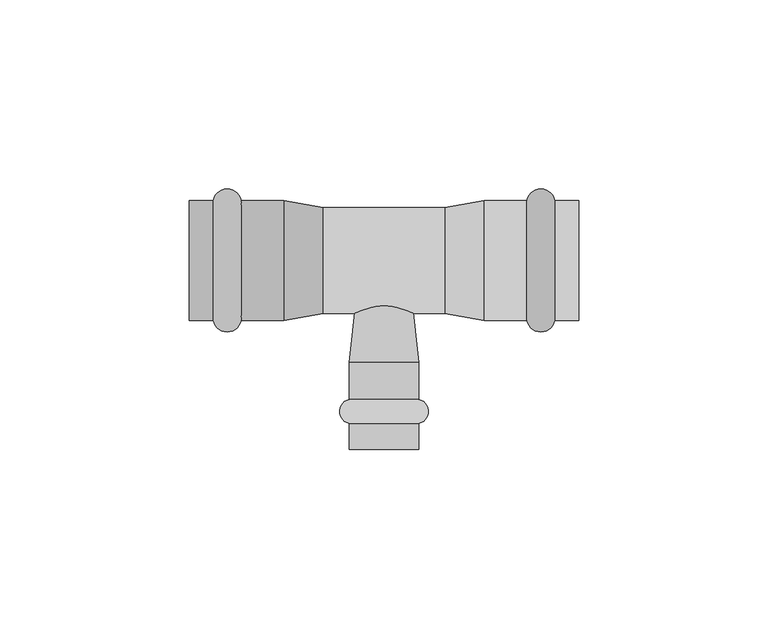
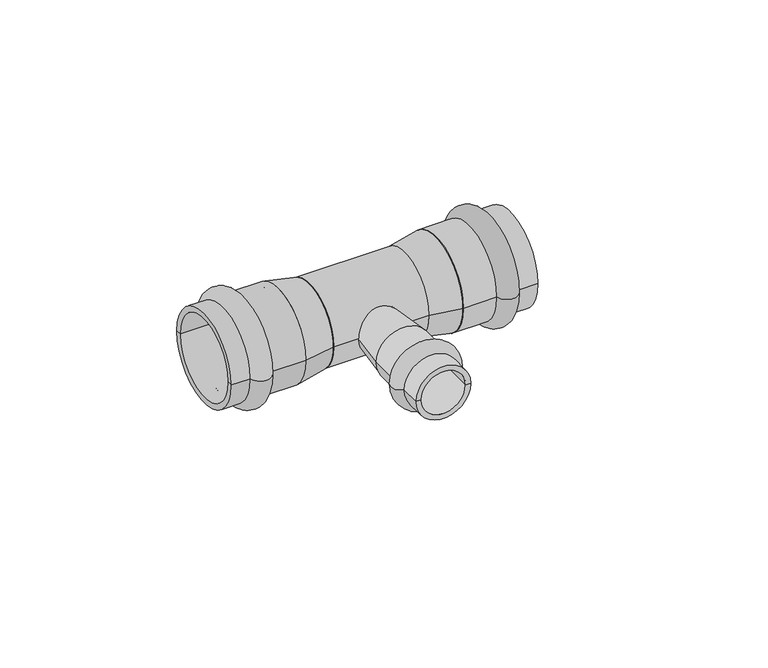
"""IFC4 building model written with IfcOpenShell, lengths in millimetres: pipe fitting geometry, VALTEC_VTi.931.I_Тройник_Ннержавеющая сталь : VTi.931.I."""

from ifc_helpers import new_model, si_unit, point, frame, origin, origin_2d, place, context, project, spatial, polyline, circle_curve, ellipse_curve, trimmed, segment, composite_curve, outline, extrude, source, transform, mapped, element, save
from ifc_brep_helpers import plane_surface, cylinder_surface, revolved_surface, advanced_brep


def pipe_fitting_ce7a8e54(model_context):
    return source(origin(), model_context, "Body", "SolidModel", [
        advanced_brep(
        [(9.25, -43.1122777, 0.0), (-9.25, -43.1122777, 0.0), (-9.25, -36.7877223, 0.0), (9.25, -36.7877223, 0.0), (9.25, -50.0, 0.0), (-9.25, -50.0, 0.0), (7.5, -50.0, 0.0), (-7.5, -50.0, 0.0), (7.5, -27.0, 0.0), (-7.5, -27.0, 0.0), (9.25, -27.0, 0.0), (-9.25, -27.0, 0.0)],
        [
            (0, 1, circle_curve(frame((0.0, -43.1122777, 0.0), z_axis=(0.0, 1.0, 0.0), x_axis=(-1.0, 0.0, 0.0)), 9.25)),
            (1, 2, circle_curve(frame((-8.5, -39.95, 0.0), z_axis=(0.0, 0.0, -1.0), x_axis=(0.0, 1.0, 0.0)), 3.25)),
            (2, 3, circle_curve(frame((0.0, -36.7877223, 0.0), z_axis=(0.0, -1.0, 0.0), x_axis=(-1.0, 0.0, 0.0)), 9.25)),
            (3, 0, circle_curve(frame((8.5, -39.95, 0.0), z_axis=(0.0, 0.0, -1.0), x_axis=(0.0, 1.0, 0.0)), 3.25)),
            (1, 0, circle_curve(frame((0.0, -43.1122777, 0.0), z_axis=(0.0, 1.0, 0.0), x_axis=(-1.0, 0.0, 0.0)), 9.25)),
            (3, 2, circle_curve(frame((0.0, -36.7877223, 0.0), z_axis=(0.0, -1.0, 0.0), x_axis=(-1.0, 0.0, 0.0)), 9.25)),
            (4, 5, circle_curve(frame((0.0, -50.0, 0.0), z_axis=(0.0, 1.0, 0.0), x_axis=(-1.0, 0.0, 0.0)), 9.25)),
            (5, 1),
            (0, 4),
            (5, 4, circle_curve(frame((0.0, -50.0, 0.0), z_axis=(0.0, 1.0, 0.0), x_axis=(-1.0, 0.0, 0.0)), 9.25)),
            (6, 7, circle_curve(frame((0.0, -50.0, 0.0), z_axis=(0.0, 1.0, 0.0), x_axis=(-1.0, 0.0, 0.0)), 7.5)),
            (7, 5),
            (4, 6),
            (7, 6, circle_curve(frame((0.0, -50.0, 0.0), z_axis=(0.0, 1.0, 0.0), x_axis=(-1.0, 0.0, 0.0)), 7.5)),
            (8, 9, circle_curve(frame((0.0, -27.0, 0.0), z_axis=(0.0, 1.0, 0.0), x_axis=(-1.0, 0.0, 0.0)), 7.5)),
            (9, 7),
            (6, 8),
            (9, 8, circle_curve(frame((0.0, -27.0, 0.0), z_axis=(0.0, 1.0, 0.0), x_axis=(-1.0, 0.0, 0.0)), 7.5)),
            (10, 11, circle_curve(frame((0.0, -27.0, 0.0), z_axis=(0.0, 1.0, 0.0), x_axis=(-1.0, 0.0, 0.0)), 9.25)),
            (11, 9),
            (8, 10),
            (11, 10, circle_curve(frame((0.0, -27.0, 0.0), z_axis=(0.0, 1.0, 0.0), x_axis=(-1.0, 0.0, 0.0)), 9.25)),
            (2, 11),
            (10, 3),
        ],
        [
            revolved_surface(trimmed(ellipse_curve(frame((-8.5, -39.95, 0.0), z_axis=(0.0, 0.0, 1.0), x_axis=(0.0, 1.0, 0.0)), 3.25, 3.25), [point((-9.25, -36.7877223, 0.0))], [point((-9.25, -43.1122777, 0.0))], True, "CARTESIAN"), (0.0, -53.5364426, 0.0), (0.0, -1.0, 0.0)),
            cylinder_surface(frame((0.0, -53.5364426, 0.0), z_axis=(0.0, -1.0, 0.0), x_axis=(-1.0, 0.0, 0.0)), 9.25),
            plane_surface(frame((0.0, -50.0, 0.0), z_axis=(0.0, -1.0, 0.0), x_axis=(-1.0, 0.0, 0.0))),
            revolved_surface(polyline([(-7.5, -50.0, 0.0), (-7.5, -27.0, 0.0)]), (0.0, -53.5364426, 0.0), (0.0, -1.0, 0.0)),
            plane_surface(frame((0.0, -27.0, 0.0), z_axis=(0.0, 1.0, 0.0), x_axis=(-1.0, 0.0, 0.0))),
        ],
        [
            (0, [[1, 2, 3, 4]]),
            (0, [[5, -4, 6, -2]]),
            (1, [[7, 8, -1, 9]]),
            (1, [[10, -9, -5, -8]]),
            (2, [[11, 12, -7, 13]]),
            (2, [[14, -13, -10, -12]]),
            (3, [[15, 16, -11, 17]]),
            (3, [[18, -17, -14, -16]]),
            (4, [[19, 20, -15, 21]]),
            (4, [[22, -21, -18, -20]]),
            (1, [[-3, 23, -19, 24]]),
            (1, [[-6, -24, -22, -23]]),
        ],
    ),
        advanced_brep(
        [(45.1242346, 15.9, 0.0), (45.1242346, -15.9, 0.0), (37.7757654, -15.9, 0.0), (37.7757654, 15.9, 0.0), (51.5, 15.9, 0.0), (51.5, -15.9, 0.0), (51.5, 14.0, 0.0), (51.5, -14.0, 0.0), (26.5, 14.0, 0.0), (26.5, -14.0, 0.0), (26.5, 15.9, 0.0), (26.5, -15.9, 0.0)],
        [
            (0, 1, circle_curve(frame((45.1242346, 0.0, 0.0), z_axis=(-1.0, 0.0, 0.0), x_axis=(0.0, -1.0, 0.0)), 15.9)),
            (1, 2, circle_curve(frame((41.45, -15.15, 0.0), z_axis=(0.0, 0.0, -1.0), x_axis=(-1.0, 0.0, 0.0)), 3.75)),
            (2, 3, circle_curve(frame((37.7757654, 0.0, 0.0), z_axis=(1.0, 0.0, 0.0), x_axis=(0.0, -1.0, 0.0)), 15.9)),
            (3, 0, circle_curve(frame((41.45, 15.15, 0.0), z_axis=(0.0, 0.0, -1.0), x_axis=(-1.0, 0.0, 0.0)), 3.75)),
            (1, 0, circle_curve(frame((45.1242346, 0.0, 0.0), z_axis=(-1.0, 0.0, 0.0), x_axis=(0.0, -1.0, 0.0)), 15.9)),
            (3, 2, circle_curve(frame((37.7757654, 0.0, 0.0), z_axis=(1.0, 0.0, 0.0), x_axis=(0.0, -1.0, 0.0)), 15.9)),
            (4, 5, circle_curve(frame((51.5, 0.0, 0.0), z_axis=(-1.0, 0.0, 0.0), x_axis=(0.0, -1.0, 0.0)), 15.9)),
            (5, 1),
            (0, 4),
            (5, 4, circle_curve(frame((51.5, 0.0, 0.0), z_axis=(-1.0, 0.0, 0.0), x_axis=(0.0, -1.0, 0.0)), 15.9)),
            (6, 7, circle_curve(frame((51.5, 0.0, 0.0), z_axis=(-1.0, 0.0, 0.0), x_axis=(0.0, -1.0, 0.0)), 14.0)),
            (7, 5),
            (4, 6),
            (7, 6, circle_curve(frame((51.5, 0.0, 0.0), z_axis=(-1.0, 0.0, 0.0), x_axis=(0.0, -1.0, 0.0)), 14.0)),
            (8, 9, circle_curve(frame((26.5, 0.0, 0.0), z_axis=(-1.0, 0.0, 0.0), x_axis=(0.0, -1.0, 0.0)), 14.0)),
            (9, 7),
            (6, 8),
            (9, 8, circle_curve(frame((26.5, 0.0, 0.0), z_axis=(-1.0, 0.0, 0.0), x_axis=(0.0, -1.0, 0.0)), 14.0)),
            (10, 11, circle_curve(frame((26.5, 0.0, 0.0), z_axis=(-1.0, 0.0, 0.0), x_axis=(0.0, -1.0, 0.0)), 15.9)),
            (11, 9),
            (8, 10),
            (11, 10, circle_curve(frame((26.5, 0.0, 0.0), z_axis=(-1.0, 0.0, 0.0), x_axis=(0.0, -1.0, 0.0)), 15.9)),
            (2, 11),
            (10, 3),
        ],
        [
            revolved_surface(trimmed(ellipse_curve(frame((41.45, -15.15, 0.0), z_axis=(0.0, 0.0, 1.0), x_axis=(-1.0, 0.0, 0.0)), 3.75, 3.75), [point((37.7757654, -15.9, 0.0))], [point((45.1242346, -15.9, 0.0))], True, "CARTESIAN"), (55.0364426, 0.0, 0.0), (1.0, 0.0, 0.0)),
            cylinder_surface(frame((55.0364426, 0.0, 0.0), z_axis=(1.0, 0.0, 0.0), x_axis=(0.0, -1.0, 0.0)), 15.9),
            plane_surface(frame((51.5, 0.0, 0.0), z_axis=(1.0, 0.0, 0.0), x_axis=(0.0, -1.0, 0.0))),
            revolved_surface(polyline([(51.5, -14.0, 0.0), (26.5, -14.0, 0.0)]), (55.0364426, 0.0, 0.0), (1.0, 0.0, 0.0)),
            plane_surface(frame((26.5, 0.0, 0.0), z_axis=(-1.0, 0.0, 0.0), x_axis=(0.0, -1.0, 0.0))),
        ],
        [
            (0, [[1, 2, 3, 4]]),
            (0, [[5, -4, 6, -2]]),
            (1, [[7, 8, -1, 9]]),
            (1, [[10, -9, -5, -8]]),
            (2, [[11, 12, -7, 13]]),
            (2, [[14, -13, -10, -12]]),
            (3, [[15, 16, -11, 17]]),
            (3, [[18, -17, -14, -16]]),
            (4, [[19, 20, -15, 21]]),
            (4, [[22, -21, -18, -20]]),
            (1, [[-3, 23, -19, 24]]),
            (1, [[-6, -24, -22, -23]]),
        ],
    ),
        advanced_brep(
        [(-45.1242346, -15.9, 0.0), (-45.1242346, 15.9, 0.0), (-37.7757654, 15.9, 0.0), (-37.7757654, -15.9, 0.0), (-51.5, -15.9, 0.0), (-51.5, 15.9, 0.0), (-51.5, -14.0, 0.0), (-51.5, 14.0, 0.0), (-26.5, -14.0, 0.0), (-26.5, 14.0, 0.0), (-26.5, -15.9, 0.0), (-26.5, 15.9, 0.0)],
        [
            (0, 1, circle_curve(frame((-45.1242346, 0.0, 0.0), z_axis=(1.0, 0.0, 0.0), x_axis=(0.0, 1.0, 0.0)), 15.9)),
            (1, 2, circle_curve(frame((-41.45, 15.15, 0.0), z_axis=(0.0, 0.0, -1.0), x_axis=(1.0, 0.0, 0.0)), 3.75)),
            (2, 3, circle_curve(frame((-37.7757654, 0.0, 0.0), z_axis=(-1.0, 0.0, 0.0), x_axis=(0.0, 1.0, 0.0)), 15.9)),
            (3, 0, circle_curve(frame((-41.45, -15.15, 0.0), z_axis=(0.0, 0.0, -1.0), x_axis=(1.0, 0.0, 0.0)), 3.75)),
            (1, 0, circle_curve(frame((-45.1242346, 0.0, 0.0), z_axis=(1.0, 0.0, 0.0), x_axis=(0.0, 1.0, 0.0)), 15.9)),
            (3, 2, circle_curve(frame((-37.7757654, 0.0, 0.0), z_axis=(-1.0, 0.0, 0.0), x_axis=(0.0, 1.0, 0.0)), 15.9)),
            (4, 5, circle_curve(frame((-51.5, 0.0, 0.0), z_axis=(1.0, 0.0, 0.0), x_axis=(0.0, 1.0, 0.0)), 15.9)),
            (5, 1),
            (0, 4),
            (5, 4, circle_curve(frame((-51.5, 0.0, 0.0), z_axis=(1.0, 0.0, 0.0), x_axis=(0.0, 1.0, 0.0)), 15.9)),
            (6, 7, circle_curve(frame((-51.5, 0.0, 0.0), z_axis=(1.0, 0.0, 0.0), x_axis=(0.0, 1.0, 0.0)), 14.0)),
            (7, 5),
            (4, 6),
            (7, 6, circle_curve(frame((-51.5, 0.0, 0.0), z_axis=(1.0, 0.0, 0.0), x_axis=(0.0, 1.0, 0.0)), 14.0)),
            (8, 9, circle_curve(frame((-26.5, 0.0, 0.0), z_axis=(1.0, 0.0, 0.0), x_axis=(0.0, 1.0, 0.0)), 14.0)),
            (9, 7),
            (6, 8),
            (9, 8, circle_curve(frame((-26.5, 0.0, 0.0), z_axis=(1.0, 0.0, 0.0), x_axis=(0.0, 1.0, 0.0)), 14.0)),
            (10, 11, circle_curve(frame((-26.5, 0.0, 0.0), z_axis=(1.0, 0.0, 0.0), x_axis=(0.0, 1.0, 0.0)), 15.9)),
            (11, 9),
            (8, 10),
            (11, 10, circle_curve(frame((-26.5, 0.0, 0.0), z_axis=(1.0, 0.0, 0.0), x_axis=(0.0, 1.0, 0.0)), 15.9)),
            (2, 11),
            (10, 3),
        ],
        [
            revolved_surface(trimmed(ellipse_curve(frame((-41.45, 15.15, 0.0), z_axis=(0.0, 0.0, 1.0), x_axis=(1.0, 0.0, 0.0)), 3.75, 3.75), [point((-37.7757654, 15.9, 0.0))], [point((-45.1242346, 15.9, 0.0))], True, "CARTESIAN"), (-55.0364426, 0.0, 0.0), (-1.0, 0.0, 0.0)),
            cylinder_surface(frame((-55.0364426, 0.0, 0.0), z_axis=(-1.0, 0.0, 0.0), x_axis=(0.0, 1.0, 0.0)), 15.9),
            plane_surface(frame((-51.5, 0.0, 0.0), z_axis=(-1.0, 0.0, 0.0), x_axis=(0.0, 1.0, 0.0))),
            revolved_surface(polyline([(-51.5, 14.0, 0.0), (-26.5, 14.0, 0.0)]), (-55.0364426, 0.0, 0.0), (-1.0, 0.0, 0.0)),
            plane_surface(frame((-26.5, 0.0, 0.0), z_axis=(1.0, 0.0, 0.0), x_axis=(0.0, 1.0, 0.0))),
        ],
        [
            (0, [[1, 2, 3, 4]]),
            (0, [[5, -4, 6, -2]]),
            (1, [[7, 8, -1, 9]]),
            (1, [[10, -9, -5, -8]]),
            (2, [[11, 12, -7, 13]]),
            (2, [[14, -13, -10, -12]]),
            (3, [[15, 16, -11, 17]]),
            (3, [[18, -17, -14, -16]]),
            (4, [[19, 20, -15, 21]]),
            (4, [[22, -21, -18, -20]]),
            (1, [[-3, 23, -19, 24]]),
            (1, [[-6, -24, -22, -23]]),
        ],
    ),
        extrude(outline(composite_curve([segment(trimmed(circle_curve(origin_2d(), 14.0), [point((-14.0, 0.0))], [point((14.0, 0.0))], False, "CARTESIAN"), True, "CONTINUOUS"), segment(trimmed(circle_curve(origin_2d(), 14.0), [point((14.0, 0.0))], [point((-14.0, 0.0))], False, "CARTESIAN"), True, "CONTINUOUS")], self_intersect=False)), frame((-16.0, 0.0, 0.0), z_axis=(1.0, 0.0, 0.0), x_axis=(0.0, 1.0, 0.0)), (0.0, 0.0, 1.0), 32.0),
        advanced_brep(
        [(-9.25, -27.0, 0.0), (9.25, -27.0, 0.0), (-7.5, -11.3209826, 0.0), (7.5, -11.3209826, 0.0)],
        [
            (0, 1, circle_curve(frame((0.0, -27.0, 0.0), z_axis=(0.0, -1.0, 0.0), x_axis=(-1.0, 0.0, 0.0)), 9.25)),
            (1, 0, circle_curve(frame((0.0, -27.0, 0.0), z_axis=(0.0, -1.0, 0.0), x_axis=(1.0, 0.0, 0.0)), 9.25)),
            (2, 3, circle_curve(frame((0.0, -11.3209826, 0.0), z_axis=(0.0, 1.0, 0.0), x_axis=(1.0, 0.0, 0.0)), 7.5)),
            (3, 2, circle_curve(frame((0.0, -11.3209826, 0.0), z_axis=(0.0, 1.0, 0.0), x_axis=(-1.0, 0.0, 0.0)), 7.5)),
            (3, 1),
            (0, 2),
        ],
        [
            plane_surface(frame((0.0, -27.0, 0.0), z_axis=(0.0, -1.0, 0.0), x_axis=(0.0, 0.0, 1.0))),
            plane_surface(frame((0.0, -11.3209826, 0.0), z_axis=(0.0, 1.0, 0.0), x_axis=(0.0, 0.0, 1.0))),
            revolved_surface(polyline([(7.500000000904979, -11.320982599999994, 0.0), (9.25, -27.0, 0.0)]), (0.0, 55.8748063, 0.0), (0.0, -1.0, 0.0)),
            revolved_surface(polyline([(-7.500000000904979, -11.320982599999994, 0.0), (-9.25, -27.0, 0.0)]), (0.0, 55.8748063, 0.0), (0.0, -1.0, 0.0)),
        ],
        [
            (0, [[1, 2]]),
            (1, [[3, 4]]),
            (2, [[-4, 5, -1, 6]]),
            (3, [[-3, -6, -2, -5]]),
        ],
    ),
        extrude(outline(composite_curve([segment(trimmed(circle_curve(origin_2d(), 7.5), [point((0.0, -7.5))], [point((0.0, 7.5))], False, "CARTESIAN"), True, "CONTINUOUS"), segment(trimmed(circle_curve(origin_2d(), 7.5), [point((0.0, 7.5))], [point((0.0, -7.5))], False, "CARTESIAN"), True, "CONTINUOUS")], self_intersect=False)), frame((0.0, -11.3209826, 0.0), z_axis=(0.0, 1.0, 0.0), x_axis=(0.0, 0.0, 1.0)), (0.0, 0.0, 1.0), 11.3209826),
        advanced_brep(
        [(26.5, -15.9, 0.0), (26.5, 15.9, 0.0), (16.0, -14.0, 0.0), (16.0, 14.0, 0.0)],
        [
            (0, 1, circle_curve(frame((26.5, 0.0, 0.0), z_axis=(1.0, 0.0, 0.0), x_axis=(0.0, -1.0, 0.0)), 15.9)),
            (1, 0, circle_curve(frame((26.5, 0.0, 0.0), z_axis=(1.0, 0.0, 0.0), x_axis=(0.0, 1.0, 0.0)), 15.9)),
            (2, 3, circle_curve(frame((16.0, 0.0, 0.0), z_axis=(-1.0, 0.0, 0.0), x_axis=(0.0, 1.0, 0.0)), 14.0)),
            (3, 2, circle_curve(frame((16.0, 0.0, 0.0), z_axis=(-1.0, 0.0, 0.0), x_axis=(0.0, -1.0, 0.0)), 14.0)),
            (3, 1),
            (0, 2),
        ],
        [
            plane_surface(frame((26.5, 0.0, 0.0), z_axis=(1.0, 0.0, 0.0), x_axis=(0.0, 0.0, 1.0))),
            plane_surface(frame((16.0, 0.0, 0.0), z_axis=(-1.0, 0.0, 0.0), x_axis=(0.0, 0.0, 1.0))),
            revolved_surface(polyline([(16.000000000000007, 14.00000000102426, 0.0), (26.500000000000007, 15.9, 0.0)]), (-61.3684211, 0.0, 0.0), (1.0, 0.0, 0.0)),
            revolved_surface(polyline([(16.000000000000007, -14.00000000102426, 0.0), (26.500000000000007, -15.9, 0.0)]), (-61.3684211, 0.0, 0.0), (1.0, 0.0, 0.0)),
        ],
        [
            (0, [[1, 2]]),
            (1, [[3, 4]]),
            (2, [[-4, 5, -1, 6]]),
            (3, [[-3, -6, -2, -5]]),
        ],
    ),
        advanced_brep(
        [(-26.5, -15.9, 0.0), (-26.5, 15.9, 0.0), (-16.0, -14.0, 0.0), (-16.0, 14.0, 0.0)],
        [
            (0, 1, circle_curve(frame((-26.5, 0.0, 0.0), z_axis=(-1.0, 0.0, 0.0), x_axis=(0.0, -1.0, 0.0)), 15.9)),
            (1, 0, circle_curve(frame((-26.5, 0.0, 0.0), z_axis=(-1.0, 0.0, 0.0), x_axis=(0.0, 1.0, 0.0)), 15.9)),
            (2, 3, circle_curve(frame((-16.0, 0.0, 0.0), z_axis=(1.0, 0.0, 0.0), x_axis=(0.0, 1.0, 0.0)), 14.0)),
            (3, 2, circle_curve(frame((-16.0, 0.0, 0.0), z_axis=(1.0, 0.0, 0.0), x_axis=(0.0, -1.0, 0.0)), 14.0)),
            (2, 0),
            (1, 3),
        ],
        [
            plane_surface(frame((-26.5, 0.0, 0.0), z_axis=(-1.0, 0.0, 0.0), x_axis=(0.0, 0.0, -1.0))),
            plane_surface(frame((-16.0, 0.0, 0.0), z_axis=(1.0, 0.0, 0.0), x_axis=(0.0, 0.0, -1.0))),
            revolved_surface(polyline([(-16.000000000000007, -14.00000000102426, 0.0), (-26.500000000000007, -15.9, 0.0)]), (61.3684211, 0.0, 0.0), (-1.0, 0.0, 0.0)),
            revolved_surface(polyline([(-16.000000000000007, 14.00000000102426, 0.0), (-26.500000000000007, 15.9, 0.0)]), (61.3684211, 0.0, 0.0), (-1.0, 0.0, 0.0)),
        ],
        [
            (0, [[1, 2]]),
            (1, [[3, 4]]),
            (2, [[-3, 5, -2, 6]]),
            (3, [[-4, -6, -1, -5]]),
        ],
    ),
    ])


if __name__ == "__main__":
    model = new_model("IFC4")
    model_context = context("Model", 3, world=origin())
    ifc_project = project(units=[si_unit("LENGTHUNIT", "METRE", prefix="MILLI")], contexts=[model_context])
    site = spatial("IfcSite", under=ifc_project)
    building = spatial("IfcBuilding", under=site)
    placement = place(None, origin())
    pipe_fitting_shape = pipe_fitting_ce7a8e54(model_context)
    element("IfcPipeFitting", 1, ObjectType="VALTEC_VTi.931.I_Тройник_Ннержавеющая сталь : VTi.931.I", at=placement, inside=building, context=model_context, shape_type="MappedRepresentation", body=[
        mapped(pipe_fitting_shape, transform((0.0, 0.0, 0.0), x_axis=(1.0, 0.0, 0.0), y_axis=(0.0, 1.0, 0.0), z_axis=(0.0, 0.0, 1.0))),
    ])
    save(model, "model.ifc")
